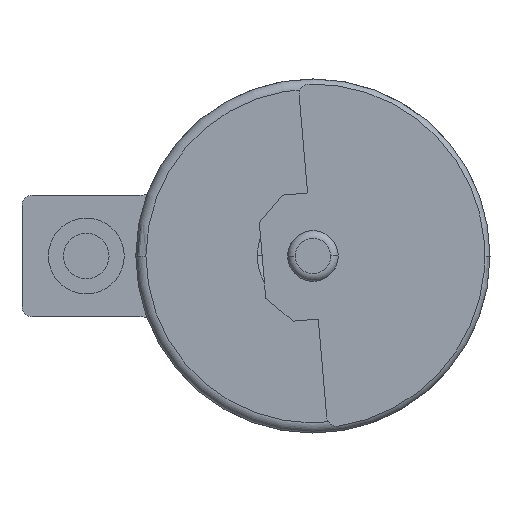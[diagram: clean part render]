
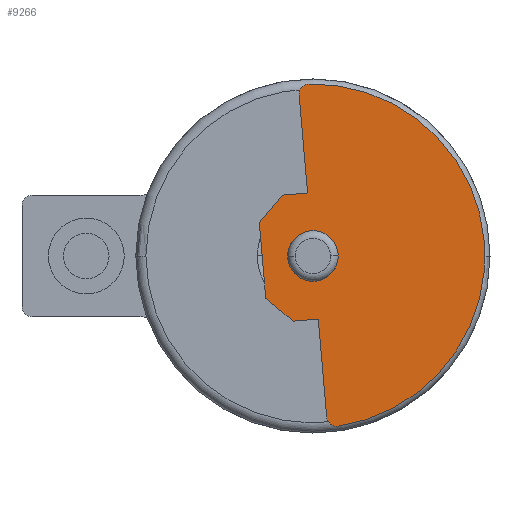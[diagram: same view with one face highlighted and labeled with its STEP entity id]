
A CAD part, left-side view. The second image highlights one B-rep face of the part: STEP entity #9266.
In plain terms, the highlighted planar face has unit normal (-1, 0, 0) as drawn and (0, 1, 0) by its records, which use the part's own axes.
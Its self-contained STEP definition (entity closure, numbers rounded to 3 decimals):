
#9028 = VERTEX_POINT('',#9029);
#9029 = CARTESIAN_POINT('',(3.393,4.2,-0.213));
#9035 = EDGE_CURVE('',#9028,#9036,#9038,.T.);
#9036 = VERTEX_POINT('',#9037);
#9037 = CARTESIAN_POINT('',(3.194,4.2,0.));
#9038 = CIRCLE('',#9039,0.2);
#9039 = AXIS2_PLACEMENT_3D('',#9040,#9041,#9042);
#9040 = CARTESIAN_POINT('',(3.194,4.2,-0.2));
#9041 = DIRECTION('',(0.,-1.,0.));
#9042 = DIRECTION('',(0.998,0.,-0.063));
#9062 = VERTEX_POINT('',#9063);
#9063 = CARTESIAN_POINT('',(1.25,4.2,0.));
#9069 = EDGE_CURVE('',#9036,#9062,#9070,.T.);
#9070 = LINE('',#9071,#9072);
#9071 = CARTESIAN_POINT('',(3.194,4.2,0.));
#9072 = VECTOR('',#9073,1.);
#9073 = DIRECTION('',(-1.,0.,0.));
#9084 = VERTEX_POINT('',#9085);
#9085 = CARTESIAN_POINT('',(1.25,4.2,0.5));
#9091 = EDGE_CURVE('',#9062,#9084,#9092,.T.);
#9092 = LINE('',#9093,#9094);
#9093 = CARTESIAN_POINT('',(1.25,4.2,0.));
#9094 = VECTOR('',#9095,1.);
#9095 = DIRECTION('',(0.,0.,1.));
#9109 = VERTEX_POINT('',#9110);
#9110 = CARTESIAN_POINT('',(0.75,4.2,1.));
#9116 = EDGE_CURVE('',#9084,#9109,#9117,.T.);
#9117 = LINE('',#9118,#9119);
#9118 = CARTESIAN_POINT('',(1.25,4.2,0.5));
#9119 = VECTOR('',#9120,1.);
#9120 = DIRECTION('',(-0.707,0.,0.707));
#9134 = VERTEX_POINT('',#9135);
#9135 = CARTESIAN_POINT('',(-0.75,4.2,1.));
#9141 = EDGE_CURVE('',#9109,#9134,#9142,.T.);
#9142 = LINE('',#9143,#9144);
#9143 = CARTESIAN_POINT('',(0.75,4.2,1.));
#9144 = VECTOR('',#9145,1.);
#9145 = DIRECTION('',(-1.,0.,0.));
#9157 = VERTEX_POINT('',#9158);
#9158 = CARTESIAN_POINT('',(-1.25,4.2,0.5));
#9164 = EDGE_CURVE('',#9134,#9157,#9165,.T.);
#9165 = LINE('',#9166,#9167);
#9166 = CARTESIAN_POINT('',(-0.75,4.2,1.));
#9167 = VECTOR('',#9168,1.);
#9168 = DIRECTION('',(-0.707,0.,-0.707));
#9182 = VERTEX_POINT('',#9183);
#9183 = CARTESIAN_POINT('',(-1.25,4.2,0.));
#9189 = EDGE_CURVE('',#9157,#9182,#9190,.T.);
#9190 = LINE('',#9191,#9192);
#9191 = CARTESIAN_POINT('',(-1.25,4.2,0.5));
#9192 = VECTOR('',#9193,1.);
#9193 = DIRECTION('',(0.,0.,-1.));
#9204 = VERTEX_POINT('',#9205);
#9205 = CARTESIAN_POINT('',(-3.194,4.2,0.));
#9211 = EDGE_CURVE('',#9182,#9204,#9212,.T.);
#9212 = LINE('',#9213,#9214);
#9213 = CARTESIAN_POINT('',(-1.25,4.2,0.));
#9214 = VECTOR('',#9215,1.);
#9215 = DIRECTION('',(-1.,0.,0.));
#9228 = EDGE_CURVE('',#9204,#9229,#9231,.T.);
#9229 = VERTEX_POINT('',#9230);
#9230 = CARTESIAN_POINT('',(-3.393,4.2,-0.213));
#9231 = CIRCLE('',#9232,0.2);
#9232 = AXIS2_PLACEMENT_3D('',#9233,#9234,#9235);
#9233 = CARTESIAN_POINT('',(-3.194,4.2,-0.2));
#9234 = DIRECTION('',(0.,-1.,0.));
#9235 = DIRECTION('',(0.,0.,1.));
#9254 = EDGE_CURVE('',#9229,#9028,#9255,.T.);
#9255 = CIRCLE('',#9256,3.4);
#9256 = AXIS2_PLACEMENT_3D('',#9257,#9258,#9259);
#9257 = CARTESIAN_POINT('',(0.,4.2,0.));
#9258 = DIRECTION('',(0.,-1.,0.));
#9259 = DIRECTION('',(-0.998,-0.,-0.063));
#9266 = ADVANCED_FACE('',(#9267,#9279),#9299,.T.);
#9267 = FACE_BOUND('',#9268,.F.);
#9268 = EDGE_LOOP('',(#9269,#9270,#9271,#9272,#9273,#9274,#9275,#9276,
    #9277,#9278));
#9269 = ORIENTED_EDGE('',*,*,#9035,.T.);
#9270 = ORIENTED_EDGE('',*,*,#9069,.T.);
#9271 = ORIENTED_EDGE('',*,*,#9091,.T.);
#9272 = ORIENTED_EDGE('',*,*,#9116,.T.);
#9273 = ORIENTED_EDGE('',*,*,#9141,.T.);
#9274 = ORIENTED_EDGE('',*,*,#9164,.T.);
#9275 = ORIENTED_EDGE('',*,*,#9189,.T.);
#9276 = ORIENTED_EDGE('',*,*,#9211,.T.);
#9277 = ORIENTED_EDGE('',*,*,#9228,.T.);
#9278 = ORIENTED_EDGE('',*,*,#9254,.T.);
#9279 = FACE_BOUND('',#9280,.F.);
#9280 = EDGE_LOOP('',(#9281,#9292));
#9281 = ORIENTED_EDGE('',*,*,#9282,.T.);
#9282 = EDGE_CURVE('',#9283,#9285,#9287,.T.);
#9283 = VERTEX_POINT('',#9284);
#9284 = CARTESIAN_POINT('',(-0.5,4.2,0.));
#9285 = VERTEX_POINT('',#9286);
#9286 = CARTESIAN_POINT('',(0.5,4.2,0.));
#9287 = CIRCLE('',#9288,0.5);
#9288 = AXIS2_PLACEMENT_3D('',#9289,#9290,#9291);
#9289 = CARTESIAN_POINT('',(0.,4.2,0.));
#9290 = DIRECTION('',(0.,1.,0.));
#9291 = DIRECTION('',(-1.,0.,0.));
#9292 = ORIENTED_EDGE('',*,*,#9293,.T.);
#9293 = EDGE_CURVE('',#9285,#9283,#9294,.T.);
#9294 = CIRCLE('',#9295,0.5);
#9295 = AXIS2_PLACEMENT_3D('',#9296,#9297,#9298);
#9296 = CARTESIAN_POINT('',(0.,4.2,0.));
#9297 = DIRECTION('',(-0.,1.,0.));
#9298 = DIRECTION('',(1.,0.,0.));
#9299 = PLANE('',#9300);
#9300 = AXIS2_PLACEMENT_3D('',#9301,#9302,#9303);
#9301 = CARTESIAN_POINT('',(0.,4.2,0.));
#9302 = DIRECTION('',(0.,1.,0.));
#9303 = DIRECTION('',(1.,0.,0.));
